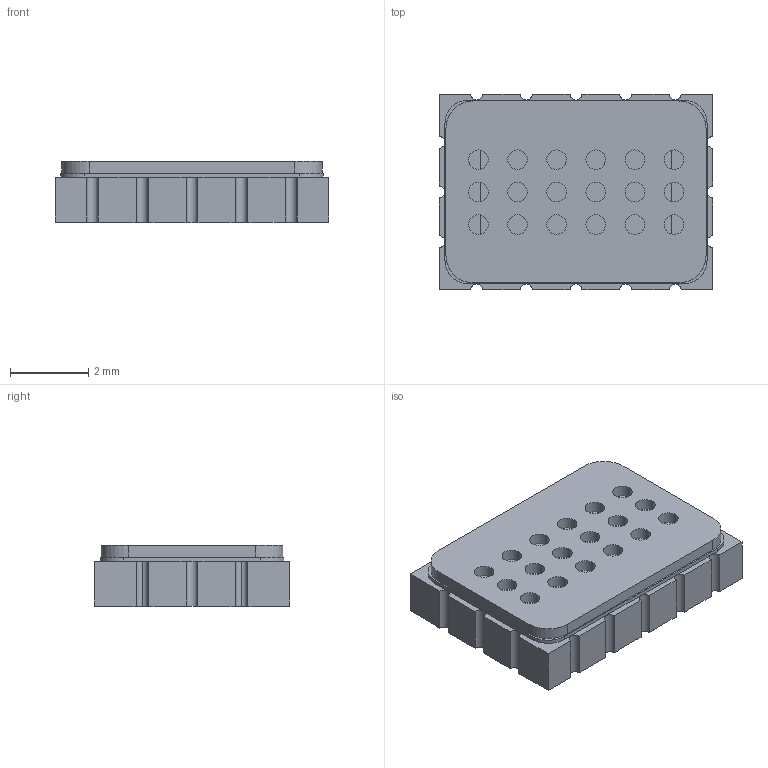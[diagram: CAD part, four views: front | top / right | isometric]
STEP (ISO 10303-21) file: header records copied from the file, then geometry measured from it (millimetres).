
FILE_DESCRIPTION (( 'STEP AP203' ), '1' );
FILE_NAME ('MiCSxxx4.STEP', '2015-11-16T15:00:43', ( '' ), ( '' ), 'SwSTEP 2.0', 'SolidWorks 2011', '' );
FILE_SCHEMA (( 'CONFIG_CONTROL_DESIGN' ));
Length unit declared in the file: millimetre
Products named in the file (4): Grille-4514; Colle-PTFE; Ceramique_5_7; MiCSxxx4
Assembly tree (3 placements, depth 2):
  MiCSxxx4
    Colle-PTFE
    Grille-4514
    Ceramique_5_7
Bounding box: 7 x 5 x 1.56 mm (x, y, z)
Volume: 36.1 mm3; surface area: 219.5 mm2
Topology: 3 solids, 3 shells, 159 faces, 453 edges, 302 vertices
Faces by surface type: plane 88, cylinder 71
Entity records: 5699 total; most frequent: DIRECTION 925, CARTESIAN_POINT 920, ORIENTED_EDGE 906, EDGE_CURVE 453, LINE 311, VECTOR 311, AXIS2_PLACEMENT_3D 307, VERTEX_POINT 302
